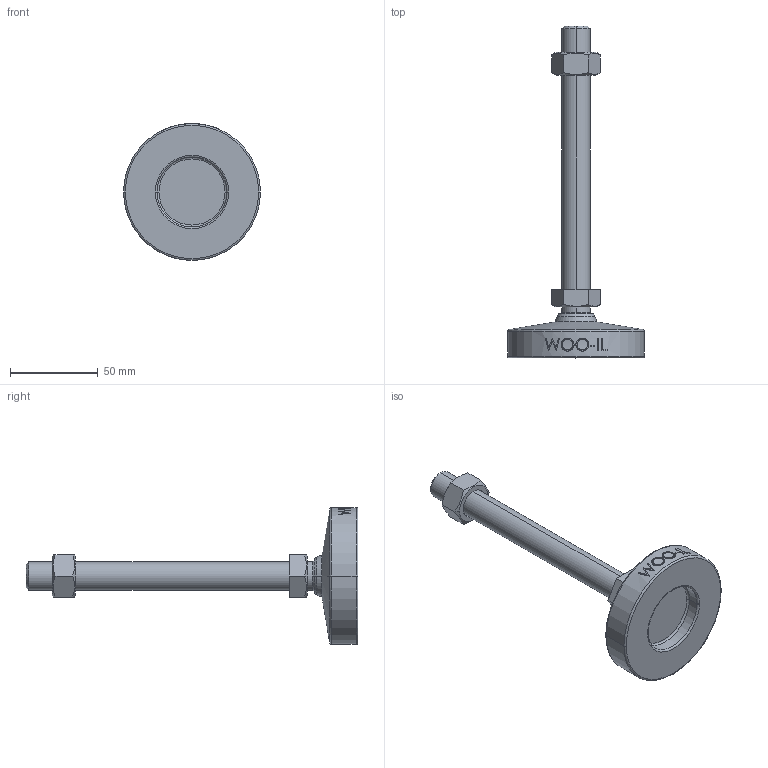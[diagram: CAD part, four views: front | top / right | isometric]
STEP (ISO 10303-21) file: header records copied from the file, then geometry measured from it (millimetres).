
FILE_DESCRIPTION (( 'STEP AP214' ), '1' );
FILE_NAME ('MFN78-M16-150.step', '2021-01-19T06:29:45', ( '' ), ( '' ), 'SwSTEP 2.0', 'SolidWorks 2019', '' );
FILE_SCHEMA (( 'AUTOMOTIVE_DESIGN' ));
Length unit declared in the file: millimetre
Products named in the file (2): MFN78-M16-150
Bounding box: 78 x 189 x 78 mm (x, y, z)
Volume: 117847.2 mm3; surface area: 25739.1 mm2
Topology: 2 solids, 2 shells, 109 faces, 253 edges, 160 vertices
Faces by surface type: plane 47, cone 18, cylinder 18, bspline 16, torus 8, sphere 2
Entity records: 4621 total; most frequent: CARTESIAN_POINT 2196, ORIENTED_EDGE 506, DIRECTION 461, EDGE_CURVE 253, AXIS2_PLACEMENT_3D 179, VERTEX_POINT 160, EDGE_LOOP 123, FACE_OUTER_BOUND 109
